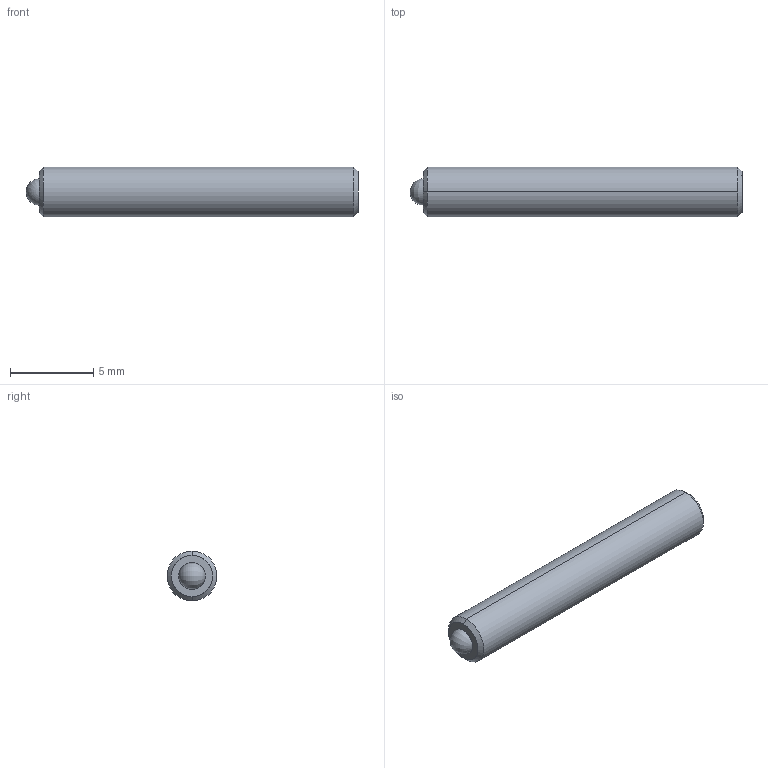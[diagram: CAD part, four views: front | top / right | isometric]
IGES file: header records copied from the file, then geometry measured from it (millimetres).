
Start section: SolidWorks IGES file using analytic representation for surfaces
Global section: file name: C:\Users\workpc\Desktop\KMA Solidworks\TS3-25 Series\TS3-25-20.IGS; native system: SolidWorks 2013; preprocessor: SolidWorks 2013; author: workpc; date: 130213.111313; units: millimetre
Bounding box: 20 x 3 x 3 mm (x, y, z)
Surface area: 214.6 mm2 (no closed solid volume)
Topology: 0 solids, 0 shells, 20 faces, 172 edges, 168 vertices
Faces by surface type: revolution 10, bspline 10
